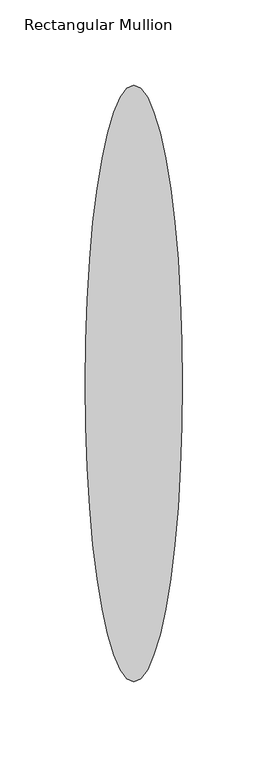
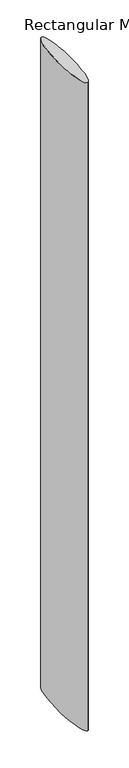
"""IFC4 building model written with IfcOpenShell, lengths in millimetres: member geometry, Rectangular Mullion : RSen_21_CWM_blade - 350 ellips - 0°_gen_duco projects."""

import ifcopenshell
import ifcopenshell.guid

model = None  # the IFC model being written
_history = None  # IfcOwnerHistory: only IFC2X3 demands one
_inside = {}  # id of a spatial element -> (the spatial element, [elements in it])
_under = {}  # id of a project, library or spatial element -> (it, [spatial elements below it])
_declared = {}  # id of a project -> (the project, [libraries it declares])
_typed = {}  # id of a type object -> (the type object, [elements of that type])
_made_of = {}  # id of a material, layer set ... -> (it, [elements and type objects made of it])


def new_model(schema):
    """Start an empty IFC model of exactly this schema.

    Asked for "IFC4X3", IfcOpenShell would pick the latest addendum, in which some entities
    have other attributes; the version numbers below select the first issue.
    IFC2X3 requires an IfcOwnerHistory on every rooted entity: one is made here for all.
    """
    global model, _history
    if schema == "IFC4X3":
        model = ifcopenshell.file(schema_version=(4, 3, 0, 0))
    else:
        model = ifcopenshell.file(schema=schema)
    _inside.clear()
    _under.clear()
    _declared.clear()
    _typed.clear()
    _made_of.clear()
    _history = None
    if model.schema == "IFC2X3":
        org = make("IfcOrganization", Name="unknown")
        user = make(
            "IfcPersonAndOrganization",
            ThePerson=make("IfcPerson", FamilyName="unknown"),
            TheOrganization=org,
        )
        app = make(
            "IfcApplication",
            ApplicationDeveloper=org,
            Version="unknown",
            ApplicationFullName="unknown",
            ApplicationIdentifier="unknown",
        )
        _history = make(
            "IfcOwnerHistory",
            OwningUser=user,
            OwningApplication=app,
            ChangeAction="ADDED",
            CreationDate=0,
        )
    return model


def make(cls, **values):
    """One entity of the class cls with the attributes given. An attribute that is None is left unset."""
    return model.create_entity(
        cls, **{name: value for name, value in values.items() if value is not None}
    )


def rooted(cls, **values):
    """An entity with a GlobalId (a new one), such as an element, a storey or a relation."""
    return make(cls, GlobalId=ifcopenshell.guid.new(), OwnerHistory=_history, **values)


def si_unit(unit_type, name, prefix=None):
    """IfcSIUnit, for example si_unit("LENGTHUNIT", "METRE", prefix="MILLI")."""
    return make("IfcSIUnit", UnitType=unit_type, Prefix=prefix, Name=name)


def assignment(units):
    """IfcUnitAssignment: the units of a project."""
    return None if units is None else make("IfcUnitAssignment", Units=units)


def point(xyz):
    """IfcCartesianPoint."""
    return None if xyz is None else make("IfcCartesianPoint", Coordinates=xyz)


def direction(xyz):
    """IfcDirection."""
    return None if xyz is None else make("IfcDirection", DirectionRatios=xyz)


def frame(location, z_axis=None, x_axis=None):
    """IfcAxis2Placement3D, a coordinate frame: its origin and axes. An axis left out is left unset."""
    return make(
        "IfcAxis2Placement3D",
        Location=point(location),
        Axis=direction(z_axis),
        RefDirection=direction(x_axis),
    )


def origin():
    """The frame at (0, 0, 0) with its axes left unset."""
    return frame((0.0, 0.0, 0.0))


def place(relative_to, where):
    """IfcLocalPlacement: puts the frame where relative to a parent placement (None: the world)."""
    return make(
        "IfcLocalPlacement", PlacementRelTo=relative_to, RelativePlacement=where
    )


def context(
    kind, dimensions, precision=None, world=None, true_north=None, identifier=None
):
    """IfcGeometricRepresentationContext, for example the 3D "Model" context."""
    return make(
        "IfcGeometricRepresentationContext",
        ContextIdentifier=identifier,
        ContextType=kind,
        CoordinateSpaceDimension=dimensions,
        Precision=precision,
        WorldCoordinateSystem=world,
        TrueNorth=true_north,
    )


def project(units=None, contexts=None):
    """IfcProject with its units and contexts."""
    return rooted(
        "IfcProject",
        Name="project",
        RepresentationContexts=contexts,
        UnitsInContext=assignment(units),
    )


def spatial(cls, under=None, at=None, **own):
    """A site, building, storey or space (cls), placed at a placement, below another one or the project."""
    s = rooted(cls, ObjectPlacement=at, **own)
    if under is not None:
        _under.setdefault(under.id(), (under, []))[1].append(s)
    return s


def ellipse_curve(where, semi_axis1, semi_axis2):
    """IfcEllipse in the frame where."""
    return make(
        "IfcEllipse", Position=where, SemiAxis1=semi_axis1, SemiAxis2=semi_axis2
    )


def trimmed(basis, trim1, trim2, sense, master):
    """IfcTrimmedCurve: the piece of a basis curve between two trims."""
    return make(
        "IfcTrimmedCurve",
        BasisCurve=basis,
        Trim1=trim1,
        Trim2=trim2,
        SenseAgreement=sense,
        MasterRepresentation=master,
    )


def shape(context_of_items, identifier, shape_type, items):
    """IfcShapeRepresentation: the items that make up one representation, for example the "Body"."""
    return make(
        "IfcShapeRepresentation",
        ContextOfItems=context_of_items,
        RepresentationIdentifier=identifier,
        RepresentationType=shape_type,
        Items=items,
    )


def source(mapping_origin, context_of_items, identifier, shape_type, items):
    """IfcRepresentationMap: a shape defined once, which mapped items show again and again."""
    return make(
        "IfcRepresentationMap",
        MappingOrigin=mapping_origin,
        MappedRepresentation=shape(context_of_items, identifier, shape_type, items),
    )


def transform(
    local_origin,
    x_axis=None,
    y_axis=None,
    z_axis=None,
    scale=None,
    scale2=None,
    scale3=None,
    uniform=True,
):
    """IfcCartesianTransformationOperator3D, or its non-uniform kind. x_axis, y_axis, z_axis: its Axis1, 2, 3."""
    if uniform:
        return make(
            "IfcCartesianTransformationOperator3D",
            Axis1=direction(x_axis),
            Axis2=direction(y_axis),
            LocalOrigin=point(local_origin),
            Scale=scale,
            Axis3=direction(z_axis),
        )
    return make(
        "IfcCartesianTransformationOperator3DnonUniform",
        Axis1=direction(x_axis),
        Axis2=direction(y_axis),
        LocalOrigin=point(local_origin),
        Scale=scale,
        Axis3=direction(z_axis),
        Scale2=scale2,
        Scale3=scale3,
    )


def mapped(mapping_source, mapping_target):
    """IfcMappedItem: shows the shape of a source again, moved by a transform."""
    return make(
        "IfcMappedItem", MappingSource=mapping_source, MappingTarget=mapping_target
    )


def made_of(thing, what):
    """Note that an element or type object is made of a material, layer set ...; save() writes the relation."""
    if what is not None:
        _made_of.setdefault(what.id(), (what, []))[1].append(thing)
    return thing


def element(
    cls,
    number,
    at=None,
    inside=None,
    cuts=None,
    type_object=None,
    material=None,
    context=None,
    identifier="Body",
    shape_type=None,
    held_by="IfcProductDefinitionShape",
    body=None,
    shapes=None,
    **own,
):
    """One element of the class cls, such as IfcWall. Its Tag is "e" and its number.

    at: its placement. inside: the storey or other place that contains it. cuts: it is an
    opening in that element (IfcRelVoidsElement). A single representation is given by context,
    identifier, shape_type and body (its items); several are given by shapes. held_by: the class
    of the entity that holds the representations. save() writes the other relations.
    """
    e = rooted(cls, Tag="e%d" % number, ObjectPlacement=at, **own)
    if body is not None:
        shapes = [shape(context, identifier, shape_type, body)]
    if shapes is not None:
        e.Representation = make(held_by, Representations=shapes)
    if inside is not None:
        _inside.setdefault(inside.id(), (inside, []))[1].append(e)
    if cuts is not None:
        rooted(
            "IfcRelVoidsElement", RelatingBuildingElement=cuts, RelatedOpeningElement=e
        )
    if type_object is not None:
        _typed.setdefault(type_object.id(), (type_object, []))[1].append(e)
    return made_of(e, material)


def aggregate(whole, parts):
    """IfcRelAggregates: a whole, such as a stair, and the parts it consists of."""
    return rooted("IfcRelAggregates", RelatingObject=whole, RelatedObjects=parts)


def save(model, path):
    """Write the relations noted so far, then the file.

    IfcRelAggregates (storeys below a building ...), IfcRelContainedInSpatialStructure (elements
    in a storey), IfcRelDefinesByType, IfcRelAssociatesMaterial and IfcRelDeclares: one each for
    every whole, place, type object, material and project.
    """
    for whole, parts in _under.values():
        aggregate(whole, parts)
    for where, things in _inside.values():
        rooted(
            "IfcRelContainedInSpatialStructure",
            RelatedElements=things,
            RelatingStructure=where,
        )
    for kind, things in _typed.values():
        rooted("IfcRelDefinesByType", RelatedObjects=things, RelatingType=kind)
    for what, things in _made_of.values():
        rooted("IfcRelAssociatesMaterial", RelatedObjects=things, RelatingMaterial=what)
    for by, libraries in _declared.values():
        rooted("IfcRelDeclares", RelatingContext=by, RelatedDefinitions=libraries)
    model.write(path)


def plane_surface(at):
    """IfcPlane: the flat surface through the origin of the frame at, square to its z axis."""
    return make("IfcPlane", Position=at)


def extruded_surface(curve, direction_of_extrusion, depth):
    """IfcSurfaceOfLinearExtrusion: the curve pushed along a direction by depth."""
    return make(
        "IfcSurfaceOfLinearExtrusion",
        SweptCurve=make("IfcArbitraryOpenProfileDef", ProfileType="CURVE", Curve=curve),
        ExtrudedDirection=direction(direction_of_extrusion),
        Depth=depth,
    )


def advanced_brep(points, edges, surfaces, faces):
    """IfcAdvancedBrep: a solid bounded by faces that lie on surfaces and meet in shared edges.

    An edge is (start, end): straight between two places in points (the first is 0);
    or (start, end, curve); or (start, end, curve, False) where it runs against its curve.
    A face is (place in surfaces, loops), or (place, loops, False) where it looks against
    its surface's normal. A loop lists edges by number (the first is 1), with a minus sign
    where the edge is run from its end to its start. The first loop is the outer one.
    """
    corners = [point(p) for p in points]
    vertices = [make("IfcVertexPoint", VertexGeometry=c) for c in corners]
    made = []
    for start, end, *more in edges:
        made.append(
            make(
                "IfcEdgeCurve",
                EdgeStart=vertices[start],
                EdgeEnd=vertices[end],
                EdgeGeometry=more[0] if more else make("IfcPolyline", Points=[corners[start], corners[end]]),
                SameSense=more[1] if len(more) > 1 else True,
            )
        )
    hull = []
    for where, loops, *sense in faces:
        bounds = []
        for j, loop in enumerate(loops):
            ring = [make("IfcOrientedEdge", EdgeElement=made[abs(k) - 1], Orientation=k > 0) for k in loop]
            bounds.append(
                make(
                    "IfcFaceOuterBound" if j == 0 else "IfcFaceBound",
                    Bound=make("IfcEdgeLoop", EdgeList=ring),
                    Orientation=True,
                )
            )
        hull.append(make("IfcAdvancedFace", Bounds=bounds, FaceSurface=surfaces[where], SameSense=sense[0] if sense else True))
    return make("IfcAdvancedBrep", Outer=make("IfcClosedShell", CfsFaces=hull))


def rectangular_mullion_7b7f291e(model_context):
    return source(origin(), model_context, "Body", "AdvancedBrep", [
        advanced_brep(
        [(0.0, 53.0, 0.0), (0.0, 403.0, 0.0), (0.0, 53.0, -3000.0), (0.0, 403.0, -3000.0)],
        [
            (0, 1, ellipse_curve(frame((0.0, 228.0, 0.0), z_axis=(0.0, 0.0, 1.0), x_axis=(0.0, 1.0, 0.0)), 175.0, 28.5)),
            (1, 0, ellipse_curve(frame((0.0, 228.0, 0.0), z_axis=(0.0, 0.0, 1.0), x_axis=(0.0, 1.0, 0.0)), 175.0, 28.5)),
            (2, 3, ellipse_curve(frame((0.0, 228.0, -3000.0), z_axis=(0.0, 0.0, -1.0), x_axis=(0.0, 1.0, 0.0)), 175.0, 28.5)),
            (3, 2, ellipse_curve(frame((0.0, 228.0, -3000.0), z_axis=(0.0, 0.0, -1.0), x_axis=(0.0, 1.0, 0.0)), 175.0, 28.5)),
            (0, 2),
            (3, 1),
        ],
        [
            plane_surface(frame((0.0, -403.0, 0.0), z_axis=(0.0, 0.0, 1.0), x_axis=(-1.0, 0.0, 0.0))),
            plane_surface(frame((0.0, -403.0, -3000.0), z_axis=(0.0, 0.0, -1.0), x_axis=(-1.0, 0.0, 0.0))),
            extruded_surface(trimmed(ellipse_curve(frame((0.0, 228.0, -3000.0), z_axis=(0.0, 0.0, 1.0), x_axis=(0.0, 1.0, 0.0)), 175.0, 28.5), [point((0.0, 53.0, -3000.0))], [point((0.0, 403.0, -3000.0))], True, "CARTESIAN"), (0.0, 0.0, 3000.0), 3000.0),
            extruded_surface(trimmed(ellipse_curve(frame((0.0, 228.0, -3000.0), z_axis=(0.0, 0.0, 1.0), x_axis=(0.0, 1.0, 0.0)), 175.0, 28.5), [point((0.0, 403.0, -3000.0))], [point((0.0, 53.0, -3000.0))], True, "CARTESIAN"), (0.0, 0.0, 3000.0), 3000.0),
        ],
        [
            (0, [[1, 2]]),
            (1, [[3, 4]]),
            (2, [[-1, 5, -4, 6]]),
            (3, [[-2, -6, -3, -5]]),
        ],
    ),
    ])


if __name__ == "__main__":
    model = new_model("IFC4")
    model_context = context("Model", 3, world=origin())
    ifc_project = project(units=[si_unit("LENGTHUNIT", "METRE", prefix="MILLI")], contexts=[model_context])
    site = spatial("IfcSite", under=ifc_project)
    building = spatial("IfcBuilding", under=site)
    placement = place(None, origin())
    rectangular_mullion_shape = rectangular_mullion_7b7f291e(model_context)
    element("IfcMember", 1, ObjectType="Rectangular Mullion : RSen_21_CWM_blade - 350 ellips - 0°_gen_duco projects", at=placement, inside=building, context=model_context, shape_type="MappedRepresentation", body=[
        mapped(rectangular_mullion_shape, transform((0.0, 0.0, 0.0), x_axis=(1.0, 0.0, 0.0), y_axis=(0.0, 1.0, 0.0), z_axis=(0.0, 0.0, 1.0))),
    ])
    save(model, "model.ifc")
